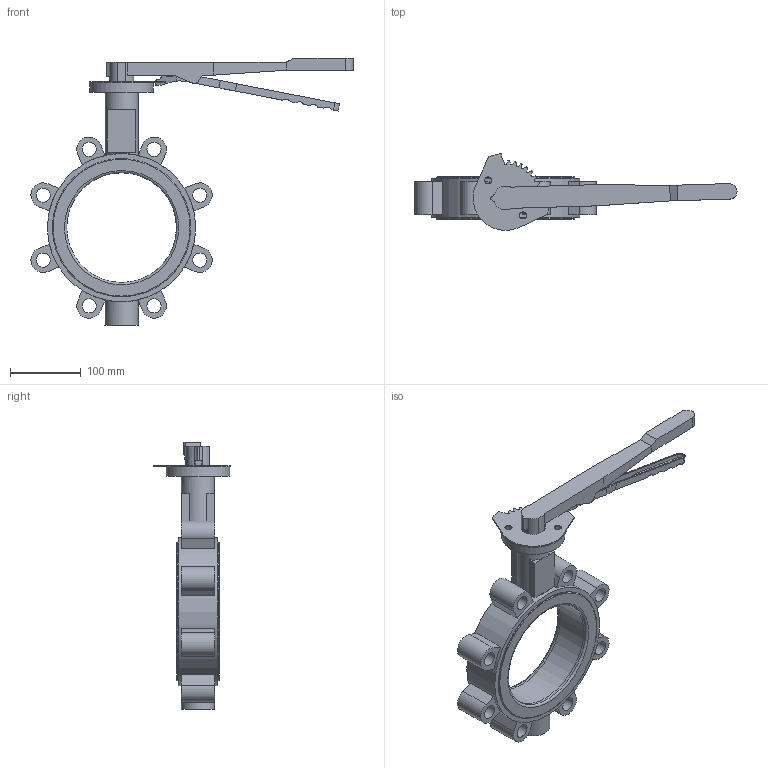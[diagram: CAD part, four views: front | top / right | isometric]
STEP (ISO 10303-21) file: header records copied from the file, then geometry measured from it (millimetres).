
FILE_DESCRIPTION (( 'STEP AP203' ), '1' );
FILE_NAME ('2502 LT型中线衬胶带销 手柄蝶阀 DN150 PN16 CD0309141.STEP', '2026-04-22T01:52:46', ( '' ), ( '' ), 'SwSTEP 2.0', 'SolidWorks 2018', '' );
FILE_SCHEMA (( 'CONFIG_CONTROL_DESIGN' ));
Length unit declared in the file: millimetre
Products named in the file (8): 新型玛钢手柄6寸副手柄; 新型玛钢手柄6寸主手柄-立方孔17; 新型玛钢手柄4-6寸不锈钢齿盘; GALA-D150-01LC-00; DIN908 内六角旋塞 M27X2; 新型玛钢手柄6寸装配体-立方孔17; GALA-D150-04AZC-00; 2502 LT型中线衬胶带销 手柄蝶阀 DN150 PN16 CD0309141
Assembly tree (7 placements, depth 3):
  2502 LT型中线衬胶带销 手柄蝶阀 DN150 PN16 CD0309141
    GALA-D150-04AZC-00
    DIN908 内六角旋塞 M27X2
    GALA-D150-01LC-00
    新型玛钢手柄6寸装配体-立方孔17
      新型玛钢手柄6寸主手柄-立方孔17
      新型玛钢手柄4-6寸不锈钢齿盘
      新型玛钢手柄6寸副手柄
Bounding box: 456.21 x 108.44 x 379 mm (x, y, z)
Volume: 1605387.1 mm3; surface area: 355941.9 mm2
Topology: 6 solids, 6 shells, 293 faces, 773 edges, 503 vertices
Faces by surface type: plane 162, cylinder 112, cone 11, torus 8
Full cylindrical faces by diameter (mm): 10 x6, 20 x8, 23.8 x1, 27 x1, 30 x1, 34 x1, 47 x2, 90 x1, 155.474 x1, 164 x2, 196 x4, 210 x1
Entity records: 9916 total; most frequent: CARTESIAN_POINT 1831, DIRECTION 1546, ORIENTED_EDGE 1436, EDGE_CURVE 718, AXIS2_PLACEMENT_3D 554, VERTEX_POINT 497, VECTOR 438, LINE 438
